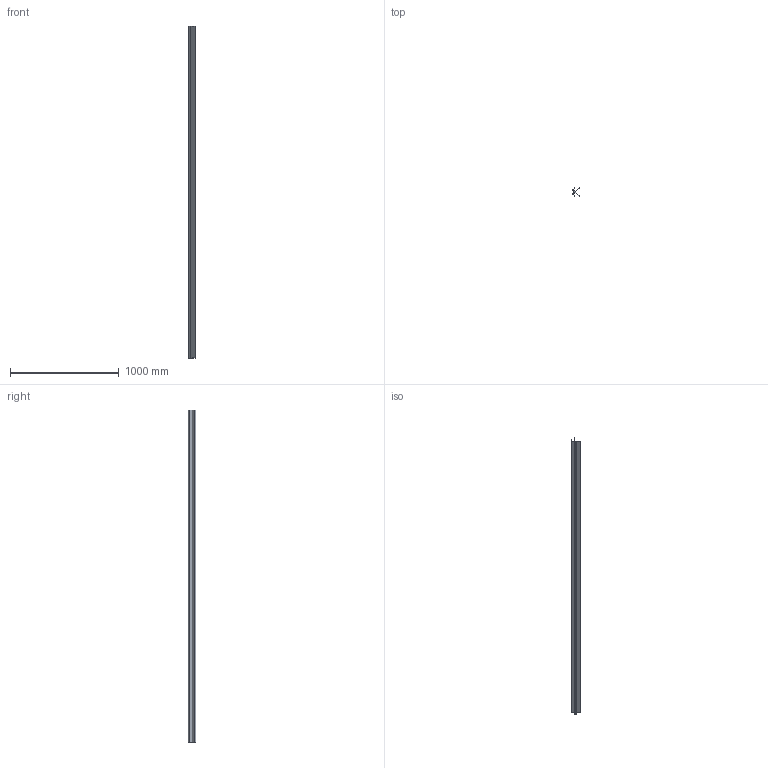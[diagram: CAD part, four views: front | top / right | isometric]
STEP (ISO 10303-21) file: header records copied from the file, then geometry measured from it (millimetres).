
FILE_DESCRIPTION (( 'STEP AP203' ), '1' );
FILE_NAME ('MXXP.STEP', '2020-11-07T15:45:02', ( '' ), ( '' ), 'SwSTEP 2.0', 'SolidWorks 2018', '' );
FILE_SCHEMA (( 'CONFIG_CONTROL_DESIGN' ));
Length unit declared in the file: inch
Products named in the file (6): MXXP2; MXXP
Assembly tree (3 placements, depth 2):
  MXXP2
  MXXP
  MXXP
    MXXP
    MXXP2  x2
  MXXP2
Bounding box: 57.44 x 72.56 x 3048 mm (x, y, z)
Volume: 484319.7 mm3; surface area: 1916378.6 mm2
Topology: 3 solids, 3 shells, 58 faces, 156 edges, 104 vertices
Faces by surface type: plane 36, cylinder 22
Entity records: 1969 total; most frequent: DIRECTION 258, CARTESIAN_POINT 251, ORIENTED_EDGE 240, EDGE_CURVE 120, AXIS2_PLACEMENT_3D 87, LINE 84, VECTOR 84, VERTEX_POINT 80
